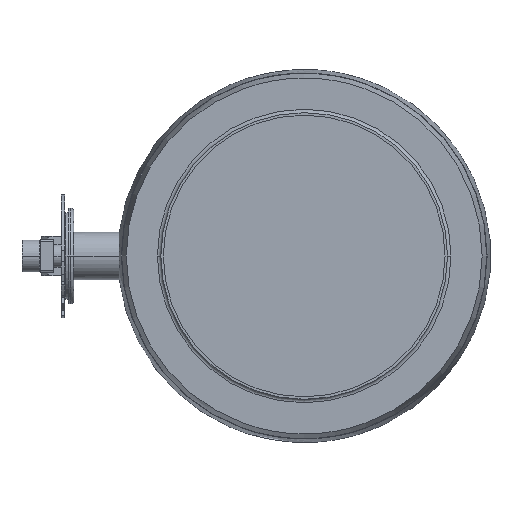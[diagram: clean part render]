
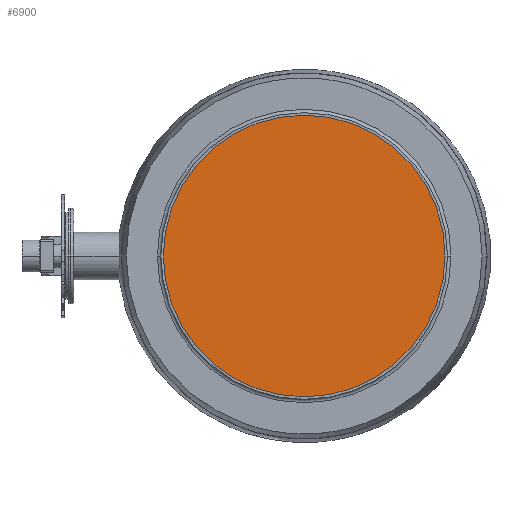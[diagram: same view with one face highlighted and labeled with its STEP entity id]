
A CAD part, left-side view. The second image highlights one B-rep face of the part: STEP entity #6900.
In plain terms, the highlighted planar face has unit normal (-1, 0, 0) as drawn and (1, 0, 0) by its records, which use the part's own axes.
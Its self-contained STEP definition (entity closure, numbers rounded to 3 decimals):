
#6470=CARTESIAN_POINT('',(79.273,92.398,
0.));
#6480=VERTEX_POINT('',#6470);
#6660=CARTESIAN_POINT('',(79.273,-157.602,0.));
#6670=VERTEX_POINT('',#6660);
#6700=CARTESIAN_POINT('',(79.273,-32.602,0.));
#6710=DIRECTION('',(1.,0.,0.));
#6720=DIRECTION('',(0.,-1.,0.));
#6730=AXIS2_PLACEMENT_3D('',#6700,#6710,#6720);
#6740=CIRCLE('',#6730,125.);
#6750=EDGE_CURVE('',#6670,#6480,#6740,.T.);
#6800=CARTESIAN_POINT('',(79.273,1.956,
-25.516));
#6810=DIRECTION('',(1.,0.,0.));
#6820=DIRECTION('',(0.,-1.,0.));
#6830=AXIS2_PLACEMENT_3D('',#6800,#6810,#6820);
#6840=PLANE('',#6830);
#6850=EDGE_CURVE('',#6480,#6670,#6740,.T.);
#6860=ORIENTED_EDGE('',*,*,#6850,.T.);
#6870=ORIENTED_EDGE('',*,*,#6750,.T.);
#6880=EDGE_LOOP('',(#6870,#6860));
#6890=FACE_OUTER_BOUND('',#6880,.T.);
#6900=ADVANCED_FACE('',(#6890),#6840,.T.);
